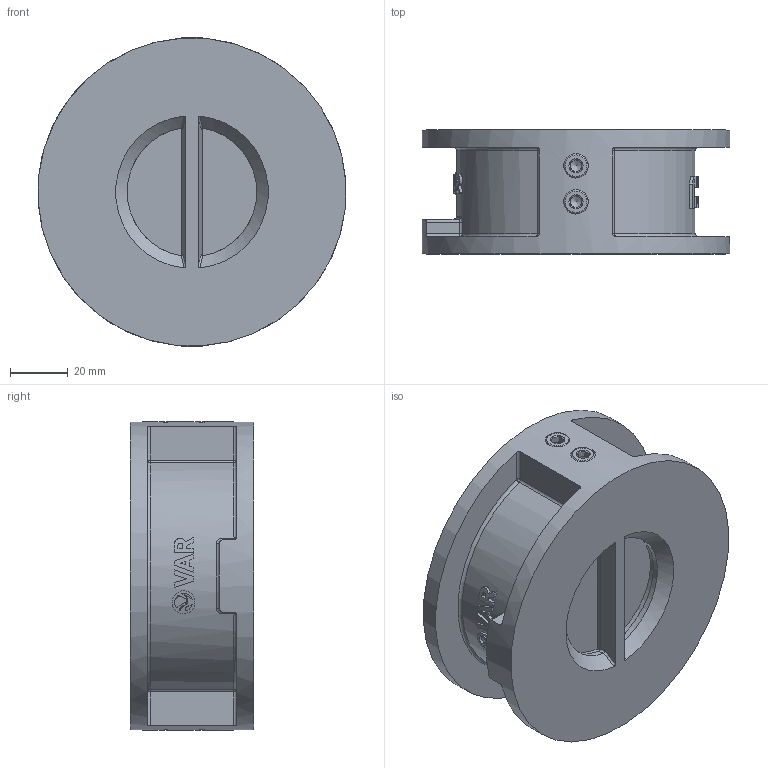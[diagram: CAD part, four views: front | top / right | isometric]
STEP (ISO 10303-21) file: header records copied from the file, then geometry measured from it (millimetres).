
FILE_DESCRIPTION(('STEP AP203'), '1');
FILE_NAME('VAR ZETKA 钺疣蝽 觌囡囗', '', ('UNSPECIFIED'), ('UNSPECIFIED'), 'C3D Converter', 'C3D Toolkit', '');
FILE_SCHEMA(('CONFIG_CONTROL_DESIGN'));
Length unit declared in the file: millimetre
Assembly tree (18 placements, depth 2):
  (unnamed)
    (unnamed)
    (unnamed)  x2
    (unnamed)  x4
    (unnamed)
    (unnamed)  x2
    (unnamed)  x2
    (unnamed)  x2
    (unnamed)  x2
    (unnamed)  x2
Bounding box: 106.8 x 43 x 107 mm (x, y, z)
Volume: 184313.9 mm3; surface area: 70067.2 mm2
Topology: 32 solids, 32 shells, 558 faces, 1393 edges, 905 vertices
Faces by surface type: plane 245, extrusion 134, cylinder 115, cone 22, bspline 20, torus 12, sphere 10
Full cylindrical faces by diameter (mm): 1.5 x2, 4 x4, 5 x8, 7.65 x16, 7.894 x1, 8.5 x8, 10.65 x6, 58.5 x1, 65 x2, 107 x1
Entity records: 28147 total; most frequent: CARTESIAN_POINT 15486, ORIENTED_EDGE 2098, DIRECTION 1620, EDGE_CURVE 1049, VERTEX_POINT 707, VECTOR 556, AXIS2_PLACEMENT_3D 532, EDGE_LOOP 526
